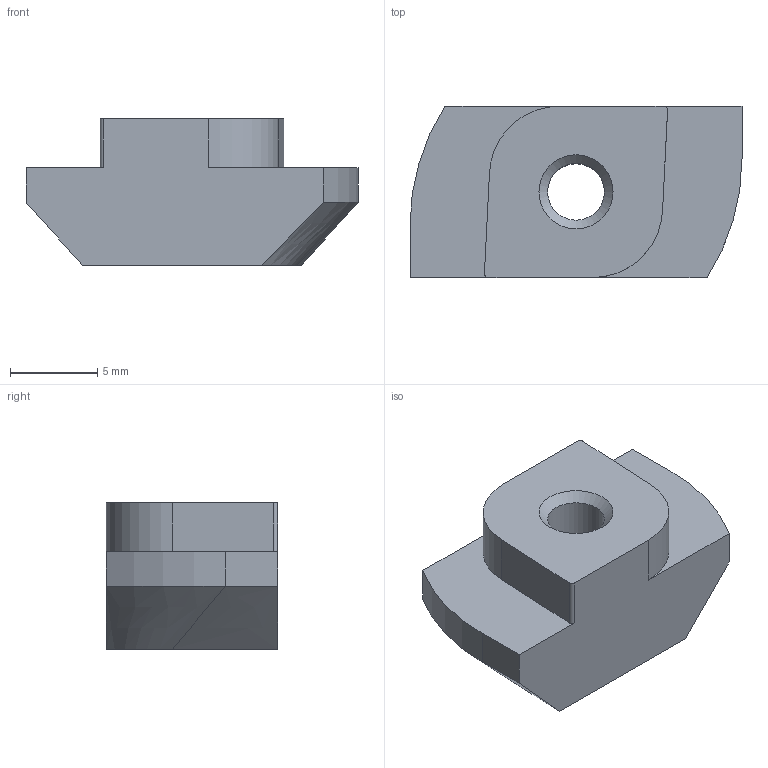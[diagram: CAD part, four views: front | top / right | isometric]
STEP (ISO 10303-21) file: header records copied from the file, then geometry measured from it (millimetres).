
FILE_DESCRIPTION((''),'2;1');
FILE_NAME('E:\catalogue and flyer\Profile catalogue 2015\Accessories JE info\Accessories-JE step file 31MAr16\JE-RN4-10.stp','2016-03-31T16:37:14',('h029'),(''),'Autodesk Inventor 11','Autodesk Inventor 11','');
FILE_SCHEMA(('AUTOMOTIVE_DESIGN { 1 0 10303 214 1 1 1 1 }'));
Length unit declared in the file: millimetre
Products named in the file (1): JE-RN4-10
Bounding box: 19 x 9.8 x 8.4 mm (x, y, z)
Volume: 1064.7 mm3; surface area: 764 mm2
Topology: 1 solids, 1 shells, 22 faces, 58 edges, 38 vertices
Faces by surface type: plane 10, cylinder 6, bspline 5, cone 1
Entity records: 803 total; most frequent: CARTESIAN_POINT 249, ORIENTED_EDGE 110, DIRECTION 105, EDGE_CURVE 55, VERTEX_POINT 37, AXIS2_PLACEMENT_3D 35, VECTOR 35, LINE 35
